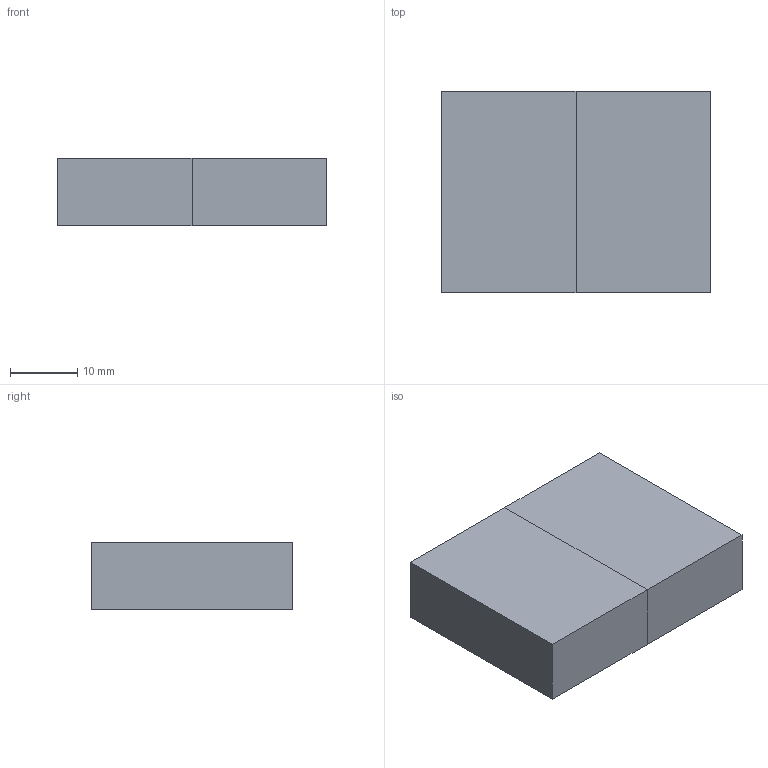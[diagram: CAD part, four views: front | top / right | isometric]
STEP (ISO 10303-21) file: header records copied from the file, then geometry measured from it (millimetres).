
FILE_DESCRIPTION(('Open CASCADE Model'),'2;1');
FILE_NAME('Open CASCADE Shape Model','2026-09-02T22:40:03',('Author'),( 'Open CASCADE'),'Open CASCADE STEP processor 7.8','Open CASCADE 7.8' ,'Unknown');
FILE_SCHEMA(('AUTOMOTIVE_DESIGN { 1 0 10303 214 1 1 1 1 }'));
Length unit declared in the file: millimetre
Products named in the file (2): Open CASCADE STEP translator 7.8 15; Open CASCADE STEP translator 7.8 16
Bounding box: 40 x 30 x 10 mm (x, y, z)
Volume: 12000 mm3; surface area: 4400 mm2
Topology: 2 solids, 2 shells, 12 faces, 24 edges, 16 vertices
Faces by surface type: plane 12
Entity records: 638 total; most frequent: CARTESIAN_POINT 101, DIRECTION 98, LINE 72, VECTOR 72, ORIENTED_EDGE 48, PCURVE 48, DEFINITIONAL_REPRESENTATION 48, EDGE_CURVE 24
